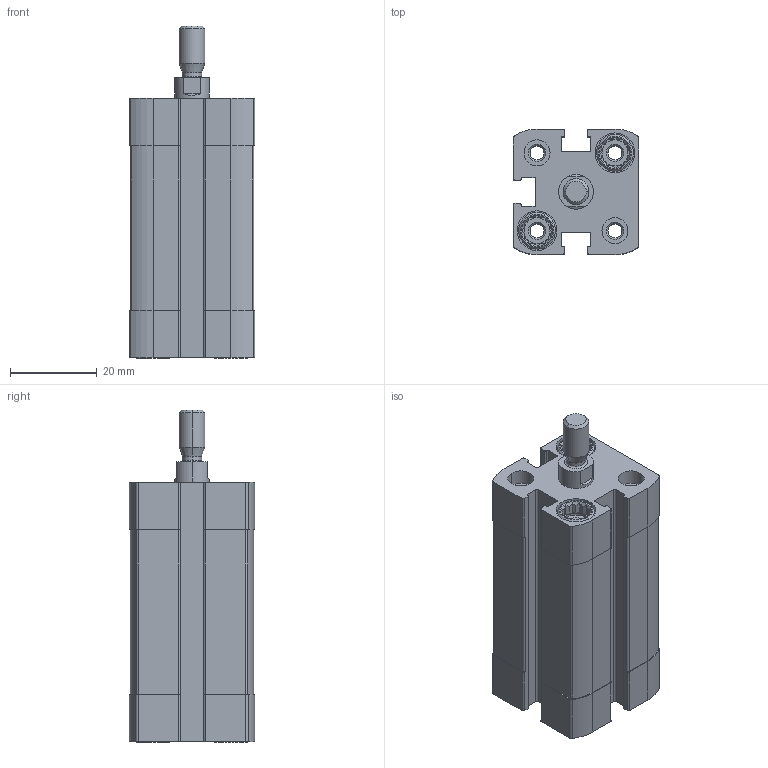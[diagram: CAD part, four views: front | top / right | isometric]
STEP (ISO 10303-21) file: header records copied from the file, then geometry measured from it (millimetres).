
FILE_DESCRIPTION (( 'STEP AP203' ), '1' );
FILE_NAME ('CCN16-25M.STEP', '2017-03-28T14:25:33', ( '' ), ( '' ), 'SwSTEP 2.0', 'SolidWorks 2016', '' );
FILE_SCHEMA (( 'CONFIG_CONTROL_DESIGN' ));
Length unit declared in the file: millimetre
Products named in the file (3): CCN-25---(Z); CCN-25_(KS); CCN16-25M
Assembly tree (2 placements, depth 2):
  CCN16-25M
    CCN-25---(Z)
    CCN-25_(KS)
Bounding box: 29 x 29 x 76.7 mm (x, y, z)
Volume: 35975.7 mm3; surface area: 18784.8 mm2
Topology: 2 solids, 2 shells, 365 faces, 946 edges, 620 vertices
Faces by surface type: plane 187, cylinder 134, cone 40, bspline 4
Entity records: 11653 total; most frequent: CARTESIAN_POINT 2296, DIRECTION 1906, ORIENTED_EDGE 1892, EDGE_CURVE 946, AXIS2_PLACEMENT_3D 694, VERTEX_POINT 620, VECTOR 518, LINE 518
